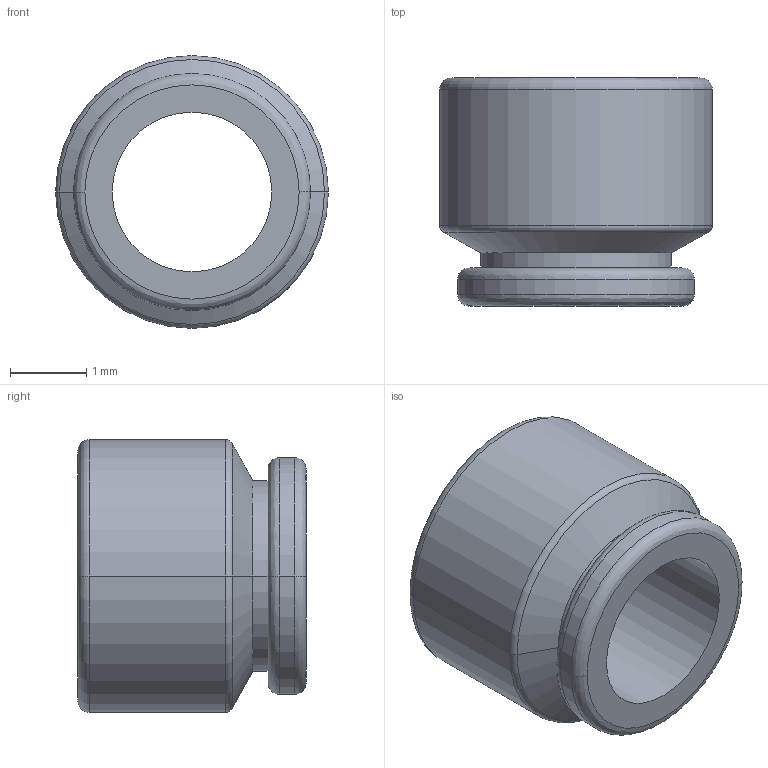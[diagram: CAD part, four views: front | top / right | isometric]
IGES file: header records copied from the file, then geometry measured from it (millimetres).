
Start section:  PTC IGES file: f20-36-30_prt.igs
Global section: file name: f20-36-30_prt.igs; native system: Pro/ENGINEER by Parametric Technology Corporation; preprocessor: 2000030; author: ECaille; organization: Unknown; date: 000803.091942; units: millimetre
Bounding box: 3.59 x 3 x 3.59 mm (x, y, z)
Surface area: 66.2 mm2 (no closed solid volume)
Topology: 0 solids, 0 shells, 21 faces, 117 edges, 138 vertices
Faces by surface type: revolution 18, bspline 3
